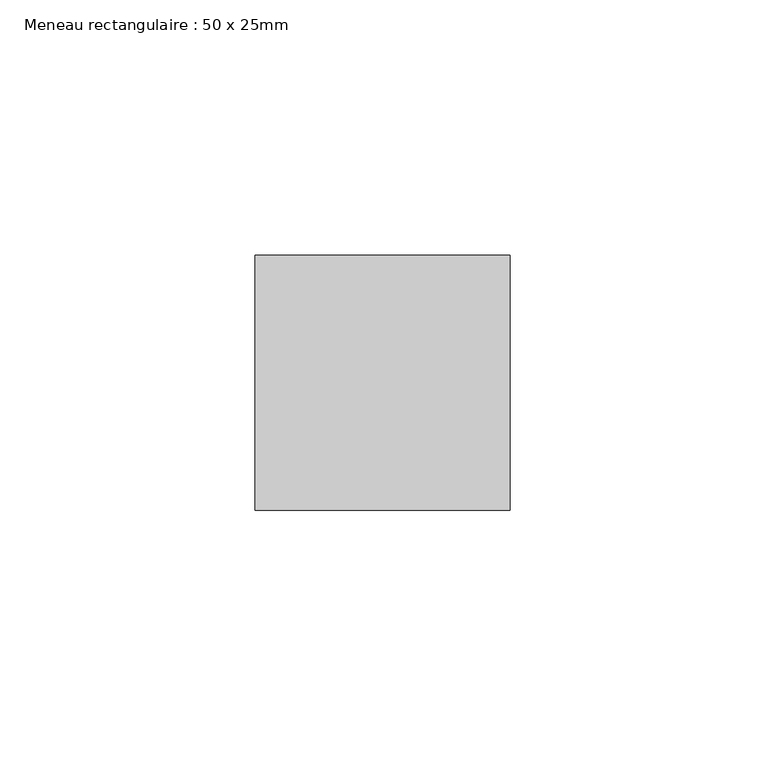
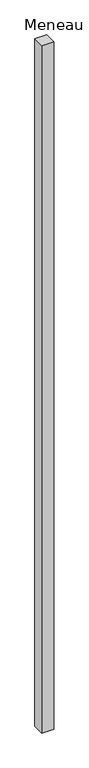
"""IFC4 building model written with IfcOpenShell, lengths in millimetres: member geometry, Meneau rectangulaire : 50 x 25mm."""

from ifc_helpers import new_model, si_unit, frame, origin, place, context, project, spatial, polyline, outline, extrude, source, transform, mapped, element, save


def meneau_rectangulaire_50_x_25mm_4a32fee8(model_context):
    return source(origin(), model_context, "Body", "SweptSolid", [
        extrude(outline(polyline([(0.0, 0.0), (0.0, -50.0), (-50.0, -50.0), (-50.0, 0.0), (0.0, 0.0)])), frame((0.0, 0.0, -3064.6187888), z_axis=(0.0, 0.0, 1.0), x_axis=(1.0, 0.0, 0.0)), (0.0, 0.0, 1.0), 3064.6187888),
    ])


if __name__ == "__main__":
    model = new_model("IFC4")
    model_context = context("Model", 3, world=origin())
    ifc_project = project(units=[si_unit("LENGTHUNIT", "METRE", prefix="MILLI")], contexts=[model_context])
    site = spatial("IfcSite", under=ifc_project)
    building = spatial("IfcBuilding", under=site)
    placement = place(None, origin())
    meneau_rectangulaire_50_x_25mm_shape = meneau_rectangulaire_50_x_25mm_4a32fee8(model_context)
    element("IfcMember", 1, ObjectType="Meneau rectangulaire : 50 x 25mm", at=placement, inside=building, context=model_context, shape_type="MappedRepresentation", body=[
        mapped(meneau_rectangulaire_50_x_25mm_shape, transform((0.0, 0.0, 0.0), x_axis=(1.0, 0.0, 0.0), y_axis=(0.0, 1.0, 0.0), z_axis=(0.0, 0.0, 1.0))),
    ])
    save(model, "model.ifc")
